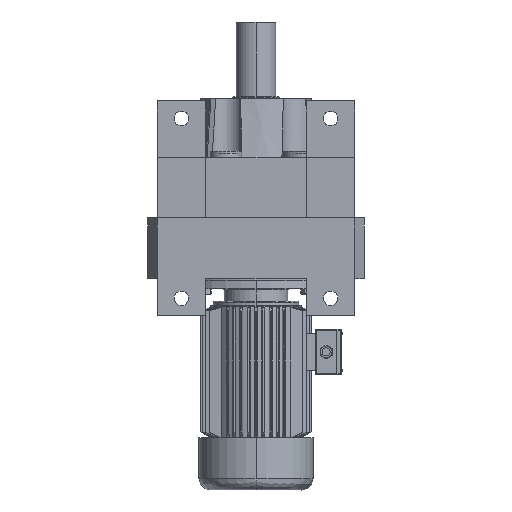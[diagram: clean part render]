
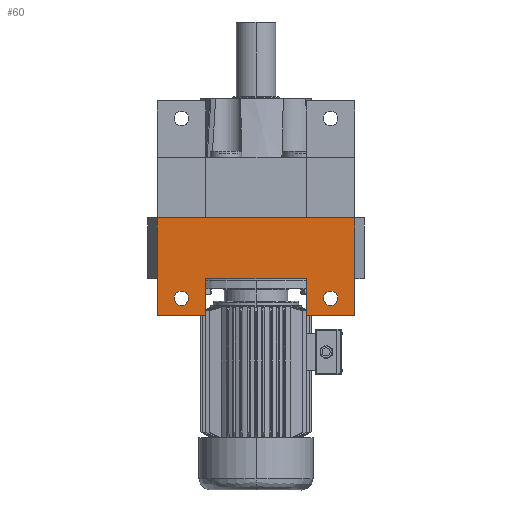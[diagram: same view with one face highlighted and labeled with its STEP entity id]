
A CAD part, front view. The second image highlights one B-rep face of the part: STEP entity #60.
In plain terms, the highlighted planar face has unit normal (0, -1, 0).
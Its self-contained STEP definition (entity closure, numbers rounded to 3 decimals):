
#60 = ADVANCED_FACE ( 'NONE', ( #18659, #6269, #14117 ), #21351, .F. ) ;
#1489 = LINE ( 'NONE', #36382, #29160 ) ;
#1673 = DIRECTION ( 'NONE',  ( 0., 0., 1. ) ) ;
#1730 = DIRECTION ( 'NONE',  ( -1., 0., 0. ) ) ;
#1787 = CARTESIAN_POINT ( 'NONE',  ( -170., -315., -45. ) ) ;
#1888 = VERTEX_POINT ( 'NONE', #9001 ) ;
#2514 = LINE ( 'NONE', #31212, #34170 ) ;
#3608 = CARTESIAN_POINT ( 'NONE',  ( 170., -315., -45. ) ) ;
#3885 = CARTESIAN_POINT ( 'NONE',  ( 197.6, -315., 138.333 ) ) ;
#4143 = CARTESIAN_POINT ( 'NONE',  ( -170., -315., -28.5 ) ) ;
#4965 = DIRECTION ( 'NONE',  ( 0., 0., -1. ) ) ;
#6088 = VECTOR ( 'NONE', #12302, 1000. ) ;
#6143 = VERTEX_POINT ( 'NONE', #29971 ) ;
#6269 = FACE_BOUND ( 'NONE', #12576, .T. ) ;
#6277 = ORIENTED_EDGE ( 'NONE', *, *, #29150, .F. ) ;
#7097 = EDGE_CURVE ( 'NONE', #25909, #32015, #17793, .T. ) ;
#7188 = CARTESIAN_POINT ( 'NONE',  ( 197.6, -315., -85. ) ) ;
#7564 = VERTEX_POINT ( 'NONE', #26783 ) ;
#8220 = ORIENTED_EDGE ( 'NONE', *, *, #31650, .F. ) ;
#8342 = CIRCLE ( 'NONE', #39297, 16.5 ) ;
#8601 = VERTEX_POINT ( 'NONE', #16111 ) ;
#9001 = CARTESIAN_POINT ( 'NONE',  ( -115., -315., -85. ) ) ;
#10445 = CARTESIAN_POINT ( 'NONE',  ( 197.6, -315., -85. ) ) ;
#11719 = CIRCLE ( 'NONE', #17942, 16.5 ) ;
#11962 = EDGE_CURVE ( 'NONE', #7564, #17329, #11719, .T. ) ;
#12302 = DIRECTION ( 'NONE',  ( 0., 0., 1. ) ) ;
#12575 = AXIS2_PLACEMENT_3D ( 'NONE', #3885, #32464, #14570 ) ;
#12576 = EDGE_LOOP ( 'NONE', ( #31093, #28398 ) ) ;
#13151 = DIRECTION ( 'NONE',  ( 1., 0., 0. ) ) ;
#13396 = LINE ( 'NONE', #10445, #36045 ) ;
#14117 = FACE_BOUND ( 'NONE', #41010, .T. ) ;
#14290 = VERTEX_POINT ( 'NONE', #40980 ) ;
#14570 = DIRECTION ( 'NONE',  ( -1., 0., 0. ) ) ;
#14582 = CARTESIAN_POINT ( 'NONE',  ( 115., -315., 0. ) ) ;
#15150 = CARTESIAN_POINT ( 'NONE',  ( 225., -315., 138.333 ) ) ;
#15587 = LINE ( 'NONE', #33484, #6088 ) ;
#15702 = DIRECTION ( 'NONE',  ( 0., 0., 1. ) ) ;
#16111 = CARTESIAN_POINT ( 'NONE',  ( -225., -315., 138.333 ) ) ;
#17235 = DIRECTION ( 'NONE',  ( -1., 0., 0. ) ) ;
#17327 = VECTOR ( 'NONE', #4965, 1000. ) ;
#17329 = VERTEX_POINT ( 'NONE', #17417 ) ;
#17417 = CARTESIAN_POINT ( 'NONE',  ( 170., -315., -61.5 ) ) ;
#17793 = LINE ( 'NONE', #18181, #22844 ) ;
#17942 = AXIS2_PLACEMENT_3D ( 'NONE', #20203, #45765, #28005 ) ;
#17965 = VERTEX_POINT ( 'NONE', #22016 ) ;
#18052 = EDGE_LOOP ( 'NONE', ( #6277, #34045, #24830, #38043, #30126, #24691, #39128, #26467 ) ) ;
#18181 = CARTESIAN_POINT ( 'NONE',  ( 111.68, -315., 0. ) ) ;
#18659 = FACE_OUTER_BOUND ( 'NONE', #18052, .T. ) ;
#19208 = EDGE_CURVE ( 'NONE', #17329, #7564, #21401, .T. ) ;
#20107 = EDGE_CURVE ( 'NONE', #29215, #35311, #13396, .T. ) ;
#20203 = CARTESIAN_POINT ( 'NONE',  ( 170., -315., -45. ) ) ;
#21221 = ORIENTED_EDGE ( 'NONE', *, *, #23423, .F. ) ;
#21351 = PLANE ( 'NONE',  #12575 ) ;
#21401 = CIRCLE ( 'NONE', #27275, 16.5 ) ;
#22016 = CARTESIAN_POINT ( 'NONE',  ( -170., -315., -61.5 ) ) ;
#22844 = VECTOR ( 'NONE', #40498, 1000. ) ;
#23423 = EDGE_CURVE ( 'NONE', #28435, #17965, #8342, .T. ) ;
#23773 = VECTOR ( 'NONE', #17235, 1000. ) ;
#24691 = ORIENTED_EDGE ( 'NONE', *, *, #35132, .F. ) ;
#24830 = ORIENTED_EDGE ( 'NONE', *, *, #36569, .F. ) ;
#25909 = VERTEX_POINT ( 'NONE', #14582 ) ;
#26467 = ORIENTED_EDGE ( 'NONE', *, *, #41511, .F. ) ;
#26783 = CARTESIAN_POINT ( 'NONE',  ( 170., -315., -28.5 ) ) ;
#27023 = DIRECTION ( 'NONE',  ( 0., 0., 1. ) ) ;
#27275 = AXIS2_PLACEMENT_3D ( 'NONE', #3608, #43267, #29200 ) ;
#28005 = DIRECTION ( 'NONE',  ( 0., 0., 1. ) ) ;
#28398 = ORIENTED_EDGE ( 'NONE', *, *, #19208, .F. ) ;
#28435 = VERTEX_POINT ( 'NONE', #4143 ) ;
#29150 = EDGE_CURVE ( 'NONE', #8601, #6143, #2514, .T. ) ;
#29160 = VECTOR ( 'NONE', #29599, 1000. ) ;
#29200 = DIRECTION ( 'NONE',  ( 0., 0., 1. ) ) ;
#29215 = VERTEX_POINT ( 'NONE', #38306 ) ;
#29599 = DIRECTION ( 'NONE',  ( 0., 0., 1. ) ) ;
#29971 = CARTESIAN_POINT ( 'NONE',  ( 225., -315., 138.333 ) ) ;
#30126 = ORIENTED_EDGE ( 'NONE', *, *, #7097, .F. ) ;
#30149 = EDGE_CURVE ( 'NONE', #1888, #32015, #46954, .T. ) ;
#30411 = DIRECTION ( 'NONE',  ( 0., -1., 0. ) ) ;
#31093 = ORIENTED_EDGE ( 'NONE', *, *, #11962, .F. ) ;
#31212 = CARTESIAN_POINT ( 'NONE',  ( 197.6, -315., 138.333 ) ) ;
#31650 = EDGE_CURVE ( 'NONE', #17965, #28435, #39080, .T. ) ;
#32015 = VERTEX_POINT ( 'NONE', #40304 ) ;
#32464 = DIRECTION ( 'NONE',  ( 0., 1., 0. ) ) ;
#33484 = CARTESIAN_POINT ( 'NONE',  ( -225., -315., 138.333 ) ) ;
#34045 = ORIENTED_EDGE ( 'NONE', *, *, #34818, .F. ) ;
#34170 = VECTOR ( 'NONE', #13151, 1000. ) ;
#34357 = LINE ( 'NONE', #15150, #17327 ) ;
#34818 = EDGE_CURVE ( 'NONE', #14290, #8601, #15587, .T. ) ;
#35132 = EDGE_CURVE ( 'NONE', #35311, #25909, #1489, .T. ) ;
#35311 = VERTEX_POINT ( 'NONE', #42047 ) ;
#36045 = VECTOR ( 'NONE', #1730, 1000. ) ;
#36382 = CARTESIAN_POINT ( 'NONE',  ( 115., -315., 138.333 ) ) ;
#36569 = EDGE_CURVE ( 'NONE', #1888, #14290, #45377, .T. ) ;
#37305 = VECTOR ( 'NONE', #15702, 1000. ) ;
#37474 = DIRECTION ( 'NONE',  ( 0., -1., 0. ) ) ;
#37727 = CARTESIAN_POINT ( 'NONE',  ( -115., -315., 405. ) ) ;
#38043 = ORIENTED_EDGE ( 'NONE', *, *, #30149, .T. ) ;
#38306 = CARTESIAN_POINT ( 'NONE',  ( 225., -315., -85. ) ) ;
#39080 = CIRCLE ( 'NONE', #40676, 16.5 ) ;
#39128 = ORIENTED_EDGE ( 'NONE', *, *, #20107, .F. ) ;
#39297 = AXIS2_PLACEMENT_3D ( 'NONE', #1787, #37474, #27023 ) ;
#40304 = CARTESIAN_POINT ( 'NONE',  ( -115., -315., 0. ) ) ;
#40498 = DIRECTION ( 'NONE',  ( -1., 0., 0. ) ) ;
#40676 = AXIS2_PLACEMENT_3D ( 'NONE', #41631, #30411, #1673 ) ;
#40980 = CARTESIAN_POINT ( 'NONE',  ( -225., -315., -85. ) ) ;
#41010 = EDGE_LOOP ( 'NONE', ( #21221, #8220 ) ) ;
#41511 = EDGE_CURVE ( 'NONE', #6143, #29215, #34357, .T. ) ;
#41631 = CARTESIAN_POINT ( 'NONE',  ( -170., -315., -45. ) ) ;
#42047 = CARTESIAN_POINT ( 'NONE',  ( 115., -315., -85. ) ) ;
#43267 = DIRECTION ( 'NONE',  ( 0., -1., 0. ) ) ;
#45377 = LINE ( 'NONE', #7188, #23773 ) ;
#45765 = DIRECTION ( 'NONE',  ( 0., -1., 0. ) ) ;
#46954 = LINE ( 'NONE', #37727, #37305 ) ;
